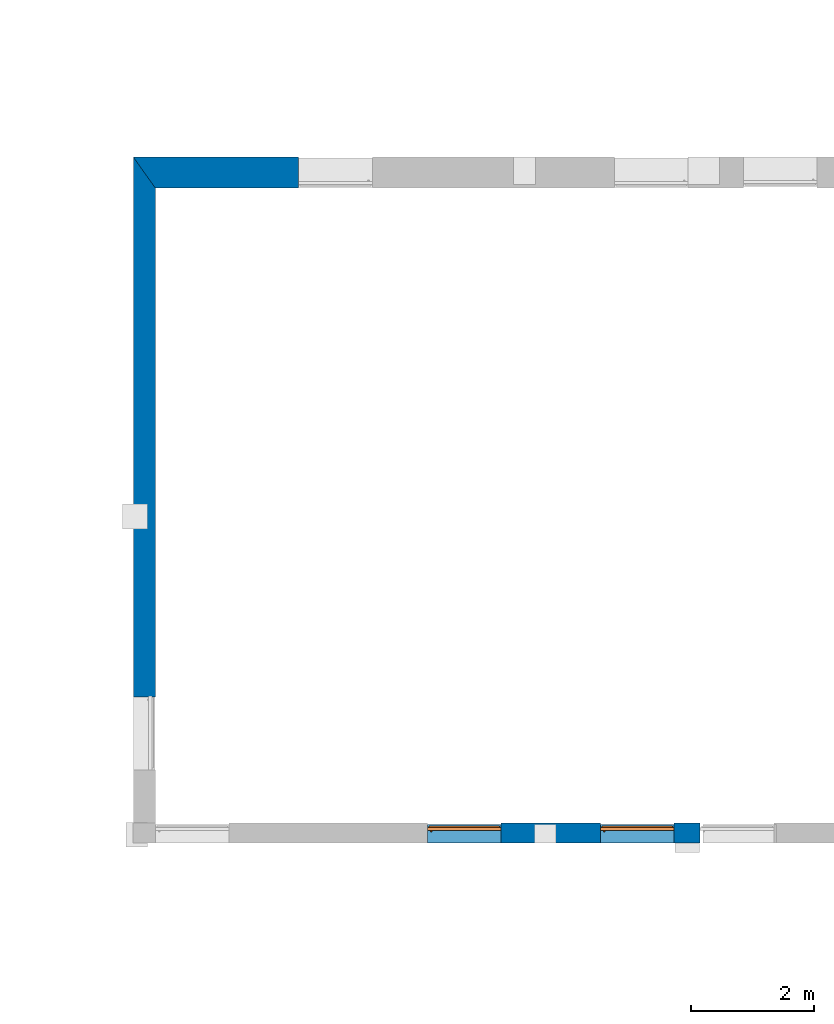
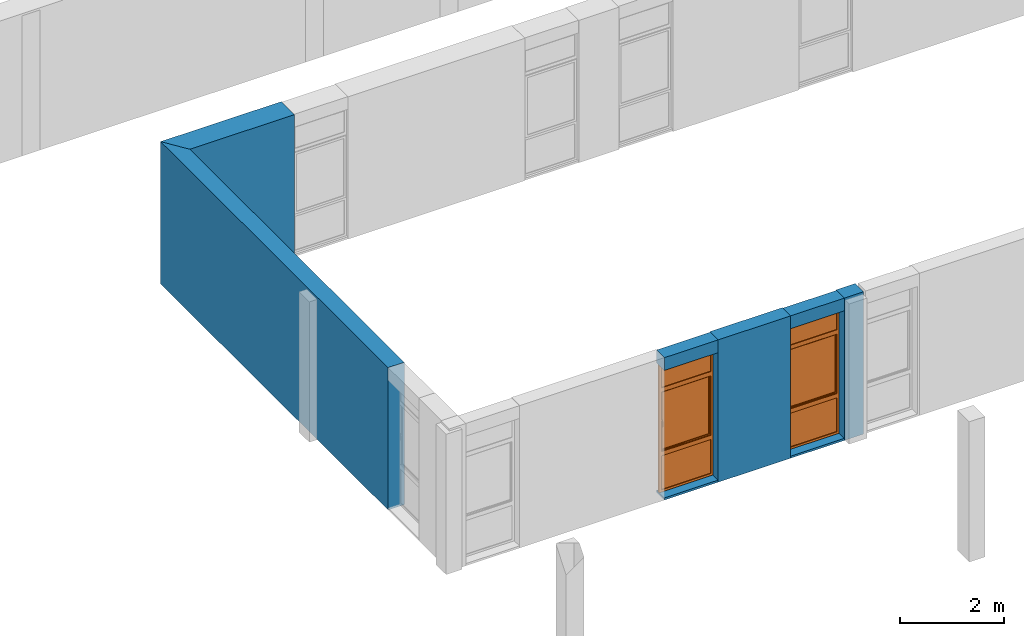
# One storey, part 3 of 11: 6 walls, 2 proxies, 2 openings.
"""IFC2X3 building model written with IfcOpenShell, lengths in millimetres."""

from ifc_helpers import new_model, entity, si_unit, converted_unit, derived_unit, money_unit, direction, frame, origin_with_axes, origin_2d_with_axis, place, context, subcontext, project, spatial, polyline, rectangle, outline, extrude, open_shell, faceted_brep, surface_model, source, transform, mapped, material, layer, layer_set, layer_usage, type_object, element, fill, save


model = new_model("IFC2X3")

# Units and contexts
model_context = context("Model", 3, precision=0.01, world=origin_with_axes(), true_north=direction((0.0, 1.0)))
body_context = subcontext(model_context, "Body", "Model", "MODEL_VIEW")
ifc_project = project(units=[si_unit("LENGTHUNIT", "METRE", prefix="MILLI"), si_unit("AREAUNIT", "SQUARE_METRE"), si_unit("VOLUMEUNIT", "CUBIC_METRE"), converted_unit("PLANEANGLEUNIT", "DEGREE", entity("IfcPlaneAngleMeasure", 0.0174532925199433), si_unit("PLANEANGLEUNIT", "RADIAN"), dimensions=[0, 0, 0, 0, 0, 0, 0]), money_unit("USD"), converted_unit("TIMEUNIT", "Year", entity("IfcTimeMeasure", 31557600.0), si_unit("TIMEUNIT", "SECOND"), dimensions=[0, 0, 1, 0, 0, 0, 0]), si_unit("MASSUNIT", "GRAM", prefix="KILO"), si_unit("THERMODYNAMICTEMPERATUREUNIT", "DEGREE_CELSIUS"), si_unit("LUMINOUSINTENSITYUNIT", "LUMEN"), si_unit("ENERGYUNIT", "JOULE", prefix="MEGA"), derived_unit("THERMALCONDUCTANCEUNIT", [(si_unit("POWERUNIT", "WATT"), 1), (si_unit("LENGTHUNIT", "METRE"), -1), (si_unit("THERMODYNAMICTEMPERATUREUNIT", "KELVIN"), -1)]), derived_unit("SPECIFICHEATCAPACITYUNIT", [(si_unit("ENERGYUNIT", "JOULE"), 1), (si_unit("MASSUNIT", "GRAM", prefix="KILO"), -1), (si_unit("THERMODYNAMICTEMPERATUREUNIT", "KELVIN"), -1)]), derived_unit("MASSDENSITYUNIT", [(si_unit("MASSUNIT", "GRAM", prefix="KILO"), 1), (si_unit("VOLUMEUNIT", "CUBIC_METRE"), -1)])], contexts=[model_context])

# Site, building, storey
site_placement = place(None, origin_with_axes())
site = spatial("IfcSite", under=ifc_project, at=site_placement, Name="Sitio", CompositionType="ELEMENT")
building_placement = place(site_placement, origin_with_axes())
building = spatial("IfcBuilding", under=site, at=building_placement, Name="Construcción", CompositionType="ELEMENT")
storey_placement = place(building_placement, frame((0.0, 0.0, -3650.0), z_axis=(0.0, 0.0, 1.0), x_axis=(1.0, 0.0, 0.0)))
storey = spatial("IfcBuildingStorey", under=building, at=storey_placement, Name="-1. Piso", CompositionType="ELEMENT", Elevation=-3650.0)

# Wall, opening, proxy
ifc_material_1 = material(Name="ARQ_AM246_Arrebossat_De_Guix")
ifc_layer_1 = layer(ifc_material_1, 20.0, ventilated="UNKNOWN")
ifc_material_2 = material(Name="ARQ_CE217_Gero")
ifc_layer_2 = layer(ifc_material_2, 110.0, ventilated="UNKNOWN")
ifc_material_3 = material(Name="ARQ_AI031_Aillament_Poliestireno expandido EPS")
ifc_layer_3 = layer(ifc_material_3, 100.0, ventilated="UNKNOWN")
ifc_material_4 = material(Name="ARQ_CE218_Ceramic")
ifc_layer_4 = layer(ifc_material_4, 50.0, ventilated="UNKNOWN")
ifc_layer_5 = layer(ifc_material_1, 20.0, ventilated="UNKNOWN")
ifc_layer_set_1 = layer_set([ifc_layer_1, ifc_layer_2, ifc_layer_3, ifc_layer_4, ifc_layer_5], Name="façana pati CR3 (ampit)")
ifc_layer_usage_1 = layer_usage(ifc_layer_set_1, "AXIS2", "POSITIVE", -300.0000000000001)
wall_type_1 = type_object("IfcWallType", Name="façana pati CR3 (ampit) 300", PredefinedType="NOTDEFINED")
wall_1_placement = place(storey_placement, frame((-22076.10900490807, -12338.97582371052, 0.0), z_axis=(0.0, 0.0, 1.0), x_axis=(-1.0, 0.0, 0.0)))
wall_1 = element("IfcWallStandardCase", 1, at=wall_1_placement, inside=storey, type_object=wall_type_1, material=ifc_layer_usage_1, Name="MS-201", context=body_context, shape_type="SweptSolid", body=[
    extrude(outline(polyline([(0.0, -300.0000000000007), (1194.999999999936, -300.0000000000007), (1194.999999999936, 0.0), (0.0, 0.0), (0.0, -300.0000000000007)])), origin_with_axes(), (0.0, 0.0, 1.0), 3350.0),
])
opening_1_placement = place(wall_1_placement, frame((594.9999999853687, 0.0, 49.99999999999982), z_axis=(0.0, 0.0, 1.0), x_axis=(1.0, 0.0, 0.0)))
opening_1 = element("IfcOpeningElement", 2, at=opening_1_placement, cuts=wall_1, Name="V - 008", context=body_context, shape_type="SweptSolid", body=[
    extrude(rectangle(XDim=1200.000000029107, YDim=3000.0, at=origin_2d_with_axis()), frame((0.0, -250.0, 1500.0), z_axis=(0.0, -1.0, 0.0), x_axis=(-1.0, 0.0, 0.0)), (0.0, 0.0, -1.0), 550.0),
    extrude(rectangle(XDim=1200.000000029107, YDim=3000.0, at=origin_2d_with_axis()), frame((0.0, -250.0, 1500.0), z_axis=(0.0, 1.0, 0.0), x_axis=(-1.0, 0.0, 0.0)), (0.0, 0.0, -1.0), 350.0000000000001),
])
building_element_proxy_type = type_object("IfcBuildingElementProxyType", Name="Ventana Vertical Multi-Faja 27", PredefinedType="NOTDEFINED")
shared_shape = source(origin_with_axes(), body_context, "Body", "SurfaceModel", [
    faceted_brep([(-575.0000000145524, 0.0, 925.0), (-550.0000000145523, 0.0, 925.0), (-550.0000000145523, 0.0, 850.0), (-550.0000000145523, 0.0, 50.00000000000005), (-600.0000000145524, 0.0, 50.00000000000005), (-600.0000000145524, 0.0, 2950.0), (-550.0000000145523, 0.0, 2950.0), (-550.0000000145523, 0.0, 2450.0), (-550.0000000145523, 0.0, 2375.0), (-575.0000000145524, 0.0, 2375.0), (-575.0000000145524, -25.00000000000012, 925.0), (-550.0000000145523, -25.00000000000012, 925.0), (-550.0000000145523, -25.00000000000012, 950.0000000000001), (-550.0000000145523, -50.00000000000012, 950.0000000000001), (-550.0000000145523, -50.00000000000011, 850.0), (-550.0000000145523, -50.00000000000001, 50.00000000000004), (-600.0000000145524, -50.00000000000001, 50.00000000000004), (-600.0000000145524, -50.00000000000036, 2950.0), (-550.0000000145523, -50.00000000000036, 2950.0), (-550.0000000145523, -50.0000000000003, 2450.0), (-550.0000000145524, -25.00000000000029, 2375.0), (-550.0000000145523, -50.00000000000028, 2350.0), (-550.0000000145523, -25.00000000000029, 2350.0), (-575.0000000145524, -25.00000000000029, 2375.0)], [[[0, 1, 2, 3, 4, 5, 6, 7, 8, 9]], [[0, 10, 11, 1]], [[11, 12, 13, 14, 2, 1]], [[3, 2, 14, 15]], [[4, 3, 15, 16]], [[5, 4, 16, 17]], [[6, 5, 17, 18]], [[7, 6, 18, 19]], [[20, 8, 7, 19, 21, 22]], [[20, 23, 9, 8]], [[9, 23, 10, 0]], [[22, 12, 11, 10, 23, 20]], [[22, 21, 13, 12]], [[17, 16, 15, 14, 13, 21, 19, 18]]]),
    faceted_brep([(575.0000000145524, 0.0, 925.0), (575.0000000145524, 0.0, 2375.0), (550.0000000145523, 0.0, 2375.0), (550.0000000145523, 0.0, 2450.0), (550.0000000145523, 0.0, 2950.0), (600.0000000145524, 0.0, 2950.0), (600.0000000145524, 0.0, 50.00000000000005), (550.0000000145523, 0.0, 50.00000000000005), (550.0000000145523, 0.0, 850.0), (550.0000000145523, 0.0, 925.0), (575.0000000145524, -25.00000000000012, 925.0), (575.0000000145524, -25.00000000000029, 2375.0), (550.0000000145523, -25.00000000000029, 2375.0), (550.0000000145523, -25.00000000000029, 2350.0), (550.0000000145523, -50.00000000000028, 2350.0), (550.0000000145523, -50.0000000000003, 2450.0), (550.0000000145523, -50.00000000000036, 2950.0), (600.0000000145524, -50.00000000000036, 2950.0), (600.0000000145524, -50.00000000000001, 50.00000000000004), (550.0000000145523, -50.00000000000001, 50.00000000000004), (550.0000000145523, -50.00000000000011, 850.0), (550.0000000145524, -25.00000000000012, 925.0), (550.0000000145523, -50.00000000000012, 950.0000000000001), (550.0000000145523, -25.00000000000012, 950.0000000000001)], [[[0, 1, 2, 3, 4, 5, 6, 7, 8, 9]], [[0, 10, 11, 1]], [[1, 11, 12, 2]], [[12, 13, 14, 15, 3, 2]], [[4, 3, 15, 16]], [[5, 4, 16, 17]], [[6, 5, 17, 18]], [[7, 6, 18, 19]], [[8, 7, 19, 20]], [[21, 9, 8, 20, 22, 23]], [[9, 21, 10, 0]], [[12, 11, 10, 21, 23, 13]], [[23, 22, 14, 13]], [[14, 22, 20, 19, 18, 17, 16, 15]]]),
    faceted_brep([(-550.0000000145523, -25.00000000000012, 950.0000000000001), (-550.0000000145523, -50.00000000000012, 950.0000000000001), (550.0000000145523, -50.00000000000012, 950.0000000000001), (550.0000000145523, -25.00000000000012, 950.0000000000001), (-550.0000000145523, -25.00000000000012, 925.0), (-550.0000000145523, 0.0, 925.0), (-550.0000000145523, 0.0, 850.0), (-550.0000000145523, -50.00000000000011, 850.0), (550.0000000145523, -50.00000000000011, 850.0), (550.0000000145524, -25.00000000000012, 925.0), (550.0000000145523, 0.0, 850.0), (550.0000000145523, 0.0, 925.0)], [[[0, 1, 2, 3]], [[4, 5, 6, 7, 1, 0]], [[1, 7, 8, 2]], [[9, 3, 2, 8, 10, 11]], [[9, 4, 0, 3]], [[5, 4, 9, 11]], [[11, 10, 6, 5]], [[6, 10, 8, 7]]]),
    faceted_brep([(-550.0000000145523, 0.0, 2375.0), (-550.0000000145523, 0.0, 2450.0), (550.0000000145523, 0.0, 2450.0), (550.0000000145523, 0.0, 2375.0), (-550.0000000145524, -25.00000000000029, 2375.0), (-550.0000000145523, -25.00000000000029, 2350.0), (-550.0000000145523, -50.00000000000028, 2350.0), (-550.0000000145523, -50.0000000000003, 2450.0), (550.0000000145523, -50.0000000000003, 2450.0), (550.0000000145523, -25.00000000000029, 2375.0), (550.0000000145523, -50.00000000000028, 2350.0), (550.0000000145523, -25.00000000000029, 2350.0)], [[[0, 1, 2, 3]], [[4, 5, 6, 7, 1, 0]], [[2, 1, 7, 8]], [[9, 3, 2, 8, 10, 11]], [[9, 4, 0, 3]], [[11, 5, 4, 9]], [[11, 10, 6, 5]], [[7, 6, 10, 8]]]),
    faceted_brep([(550.0000000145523, -50.00000000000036, 2950.0), (550.0000000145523, 0.0, 2950.0), (600.0000000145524, 0.0, 2950.0), (600.0000000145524, -50.00000000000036, 2950.0), (-550.0000000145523, -50.00000000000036, 2950.0), (-550.0000000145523, 0.0, 2950.0), (-600.0000000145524, 0.0, 2950.0), (-600.0000000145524, 0.0, 3000.0), (600.0000000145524, 0.0, 3000.0), (600.0000000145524, -50.00000000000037, 3000.0), (-600.0000000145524, -50.00000000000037, 3000.0), (-600.0000000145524, -50.00000000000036, 2950.0)], [[[0, 1, 2, 3]], [[4, 5, 1, 0]], [[1, 5, 6, 7, 8, 2]], [[3, 2, 8, 9]], [[0, 3, 9, 10, 11, 4]], [[11, 6, 5, 4]], [[10, 7, 6, 11]], [[9, 8, 7, 10]]]),
    faceted_brep([(-550.0000000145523, -50.00000000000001, 50.0), (-550.0000000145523, 0.0, 50.00000000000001), (-600.0000000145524, 0.0, 50.00000000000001), (-600.0000000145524, -50.00000000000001, 50.0), (550.0000000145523, -50.00000000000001, 50.0), (550.0000000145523, 0.0, 50.00000000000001), (600.0000000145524, 0.0, 50.00000000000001), (600.0000000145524, 0.0, 0.0), (-600.0000000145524, 0.0, 0.0), (-600.0000000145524, -50.0, 0.0), (600.0000000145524, -50.0, 0.0), (600.0000000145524, -50.00000000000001, 50.0)], [[[0, 1, 2, 3]], [[4, 5, 1, 0]], [[1, 5, 6, 7, 8, 2]], [[3, 2, 8, 9]], [[0, 3, 9, 10, 11, 4]], [[11, 6, 5, 4]], [[10, 7, 6, 11]], [[9, 8, 7, 10]]]),
    surface_model("IfcShellBasedSurfaceModel", [(-550.0000000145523, -35.0, 49.99999999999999), (550.0000000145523, -35.0, 49.99999999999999), (550.0000000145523, -35.0000000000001, 850.0), (-550.0000000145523, -35.0000000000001, 850.0)], [open_shell([[[0, 1, 2, 3]]])]),
    surface_model("IfcShellBasedSurfaceModel", [(-550.0000000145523, -15.0, 49.99999999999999), (-550.0000000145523, -15.0000000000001, 850.0), (550.0000000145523, -15.0000000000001, 850.0), (550.0000000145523, -15.0, 49.99999999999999)], [open_shell([[[0, 1, 2, 3]]])]),
    faceted_brep([(-521.5000000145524, -25.00000000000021, 1677.0), (-522.839745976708, -25.00000000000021, 1682.0), (-522.839745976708, -37.00000000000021, 1682.0), (-521.5000000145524, -37.00000000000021, 1677.0), (-521.5000000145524, -25.0000000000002, 1623.0), (-522.839745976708, -25.0000000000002, 1618.0), (-526.5000000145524, -25.0000000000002, 1614.339745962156), (-531.5000000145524, -25.0000000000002, 1613.0), (-543.5000000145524, -25.0000000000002, 1613.0), (-548.5000000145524, -25.0000000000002, 1614.339745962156), (-552.1602540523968, -25.0000000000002, 1618.0), (-553.5000000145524, -25.0000000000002, 1623.0), (-553.5000000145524, -25.00000000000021, 1677.0), (-552.1602540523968, -25.00000000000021, 1682.0), (-548.5000000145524, -25.00000000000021, 1685.660254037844), (-543.5000000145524, -25.00000000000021, 1687.0), (-531.5000000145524, -25.00000000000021, 1687.0), (-526.5000000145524, -25.00000000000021, 1685.660254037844), (-526.5000000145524, -37.00000000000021, 1685.660254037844), (-531.5000000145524, -37.00000000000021, 1687.0), (-543.5000000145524, -37.00000000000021, 1687.0), (-548.5000000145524, -37.00000000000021, 1685.660254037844), (-552.1602540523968, -37.00000000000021, 1682.0), (-553.5000000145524, -37.00000000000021, 1677.0), (-553.5000000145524, -37.0000000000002, 1623.0), (-552.1602540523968, -37.0000000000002, 1618.0), (-548.5000000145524, -37.0000000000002, 1614.339745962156), (-543.5000000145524, -37.0000000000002, 1613.0), (-531.5000000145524, -37.0000000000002, 1613.0), (-526.5000000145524, -37.0000000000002, 1614.339745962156), (-522.839745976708, -37.0000000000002, 1618.0), (-521.5000000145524, -37.0000000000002, 1623.0)], [[[0, 1, 2, 3]], [[0, 4, 5, 6, 7, 8, 9, 10, 11, 12, 13, 14, 15, 16, 17, 1]], [[1, 17, 18, 2]], [[3, 2, 18, 19, 20, 21, 22, 23, 24, 25, 26, 27, 28, 29, 30, 31]], [[4, 0, 3, 31]], [[5, 4, 31, 30]], [[6, 5, 30, 29]], [[7, 6, 29, 28]], [[8, 7, 28, 27]], [[9, 8, 27, 26]], [[10, 9, 26, 25]], [[11, 10, 25, 24]], [[12, 11, 24, 23]], [[13, 12, 23, 22]], [[14, 13, 22, 21]], [[15, 14, 21, 20]], [[16, 15, 20, 19]], [[17, 16, 19, 18]]]),
    faceted_brep([(-537.5000000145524, -37.0000000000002, 1663.5), (-544.2500000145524, -37.0000000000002, 1661.69134295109), (-544.2500000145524, -61.00000000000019, 1661.69134295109), (-537.5000000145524, -61.00000000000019, 1663.5), (-530.7500000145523, -37.0000000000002, 1661.69134295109), (-525.8086570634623, -37.0000000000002, 1656.75), (-524.0000000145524, -37.0000000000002, 1650.0), (-525.8086570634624, -37.0000000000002, 1643.25), (-530.7500000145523, -37.0000000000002, 1638.30865704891), (-537.5000000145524, -37.0000000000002, 1636.5), (-544.2500000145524, -37.0000000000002, 1638.30865704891), (-549.1913429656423, -37.0000000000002, 1643.25), (-551.0000000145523, -37.0000000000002, 1650.0), (-549.1913429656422, -37.0000000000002, 1656.75), (-549.1913429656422, -61.00000000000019, 1656.75), (-551.0000000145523, -61.00000000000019, 1650.0), (-549.1913429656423, -61.00000000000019, 1643.25), (-544.2500000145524, -61.00000000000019, 1638.30865704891), (-537.5000000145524, -61.00000000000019, 1636.5), (-530.7500000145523, -61.00000000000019, 1638.30865704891), (-525.8086570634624, -61.00000000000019, 1643.25), (-524.0000000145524, -61.00000000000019, 1650.0), (-525.8086570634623, -61.00000000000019, 1656.75), (-530.7500000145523, -61.00000000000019, 1661.69134295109)], [[[0, 1, 2, 3]], [[0, 4, 5, 6, 7, 8, 9, 10, 11, 12, 13, 1]], [[1, 13, 14, 2]], [[3, 2, 14, 15, 16, 17, 18, 19, 20, 21, 22, 23]], [[4, 0, 3, 23]], [[5, 4, 23, 22]], [[6, 5, 22, 21]], [[7, 6, 21, 20]], [[8, 7, 20, 19]], [[9, 8, 19, 18]], [[10, 9, 18, 17]], [[11, 10, 17, 16]], [[12, 11, 16, 15]], [[13, 12, 15, 14]]]),
    faceted_brep([(-526.0000000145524, -61.00000000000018, 1543.0), (-537.5000000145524, -61.00000000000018, 1540.0), (-549.0000000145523, -61.00000000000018, 1543.0), (-551.0000000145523, -61.00000000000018, 1546.0), (-551.0000000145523, -61.00000000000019, 1650.0), (-549.1913429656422, -61.00000000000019, 1656.75), (-544.2500000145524, -61.00000000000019, 1661.69134295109), (-537.5000000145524, -61.00000000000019, 1663.5), (-530.7500000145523, -61.00000000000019, 1661.69134295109), (-525.8086570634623, -61.00000000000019, 1656.75), (-524.0000000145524, -61.00000000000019, 1650.0), (-524.0000000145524, -61.00000000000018, 1546.0), (-525.9999999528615, -69.00000000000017, 1543.000000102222), (-537.4999999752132, -69.00000000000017, 1539.999999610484), (-548.9999999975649, -69.00000000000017, 1543.000000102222), (-551.0000003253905, -69.00000000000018, 1545.999999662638), (-551.0000003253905, -69.0000000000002, 1649.99999994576), (-549.1913430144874, -69.0000000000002, 1656.749999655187), (-544.2499996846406, -69.0000000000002, 1661.691342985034), (-537.4999999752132, -69.0000000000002, 1663.500000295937), (-530.7500002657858, -69.0000000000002, 1661.691342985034), (-525.808656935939, -69.0000000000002, 1656.749999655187), (-523.9999996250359, -69.0000000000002, 1649.99999994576), (-523.9999996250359, -69.00000000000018, 1545.999999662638), (-527.8625374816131, -71.99999956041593, 1545.61451963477), (-537.4999999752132, -71.99999956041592, 1543.100398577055), (-547.1374624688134, -71.99999956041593, 1545.61451963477), (-548.0000007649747, -71.99999956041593, 1546.908326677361), (-548.0000007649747, -71.99999956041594, 1649.605042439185), (-546.5016170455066, -71.99999956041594, 1655.197085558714), (-542.6970855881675, -71.99999956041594, 1659.001617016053), (-537.4999999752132, -71.99999956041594, 1660.394172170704), (-532.302914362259, -71.99999956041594, 1659.001617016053), (-528.4983829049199, -71.99999956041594, 1655.197085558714), (-526.9999991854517, -71.99999956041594, 1649.605042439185), (-526.9999991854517, -71.99999956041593, 1546.908326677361)], [[[0, 1, 2, 3, 4, 5, 6, 7, 8, 9, 10, 11]], [[1, 0, 12, 13]], [[2, 1, 13, 14]], [[3, 2, 14, 15]], [[4, 3, 15, 16]], [[5, 4, 16, 17]], [[6, 5, 17, 18]], [[7, 6, 18, 19]], [[8, 7, 19, 20]], [[9, 8, 20, 21]], [[10, 9, 21, 22]], [[11, 10, 22, 23]], [[0, 11, 23, 12]], [[13, 12, 24, 25]], [[14, 13, 25, 26]], [[15, 14, 26, 27]], [[16, 15, 27, 28]], [[17, 16, 28, 29]], [[18, 17, 29, 30]], [[19, 18, 30, 31]], [[20, 19, 31, 32]], [[21, 20, 32, 33]], [[22, 21, 33, 34]], [[23, 22, 34, 35]], [[12, 23, 35, 24]], [[26, 25, 24, 35, 34, 33, 32, 31, 30, 29, 28, 27]]]),
    faceted_brep([(-525.0000000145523, -25.00000000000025, 2325.0), (-525.0000000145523, 24.99999999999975, 2325.0), (-575.0000000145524, 24.99999999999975, 2325.0), (-575.0000000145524, -25.00000000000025, 2325.0), (-525.0000000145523, -25.00000000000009, 975.0000000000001), (-525.0000000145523, 24.99999999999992, 975.0000000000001), (-575.0000000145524, 24.99999999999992, 975.0000000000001), (-575.0000000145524, -25.00000000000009, 975.0000000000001)], [[[0, 1, 2, 3]], [[4, 5, 1, 0]], [[1, 5, 6, 2]], [[3, 2, 6, 7]], [[0, 3, 7, 4]], [[7, 6, 5, 4]]]),
    faceted_brep([(525.0000000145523, -25.00000000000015, 975.0000000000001), (525.0000000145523, 24.99999999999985, 975.0000000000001), (575.0000000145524, 24.99999999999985, 975.0000000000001), (575.0000000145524, -25.00000000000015, 975.0000000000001), (525.0000000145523, -25.00000000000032, 2325.0), (525.0000000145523, 24.99999999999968, 2325.0), (575.0000000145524, 24.99999999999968, 2325.0), (575.0000000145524, -25.00000000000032, 2325.0)], [[[0, 1, 2, 3]], [[4, 5, 1, 0]], [[1, 5, 6, 2]], [[3, 2, 6, 7]], [[0, 3, 7, 4]], [[7, 6, 5, 4]]]),
    faceted_brep([(575.0000000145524, -25.00000000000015, 925.0), (575.0000000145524, 24.99999999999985, 925.0), (575.0000000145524, 24.99999999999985, 975.0000000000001), (575.0000000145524, -25.00000000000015, 975.0000000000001), (-575.0000000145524, -25.00000000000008, 925.0), (-575.0000000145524, 24.99999999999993, 925.0), (-575.0000000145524, 24.99999999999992, 975.0000000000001), (-525.0000000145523, 24.99999999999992, 975.0000000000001), (525.0000000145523, 24.99999999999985, 975.0000000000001), (525.0000000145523, -25.00000000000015, 975.0000000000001), (-525.0000000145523, -25.00000000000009, 975.0000000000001), (-575.0000000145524, -25.00000000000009, 975.0000000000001)], [[[0, 1, 2, 3]], [[4, 5, 1, 0]], [[1, 5, 6, 7, 8, 2]], [[3, 2, 8, 9]], [[0, 3, 9, 10, 11, 4]], [[11, 6, 5, 4]], [[10, 7, 6, 11]], [[9, 8, 7, 10]]]),
    faceted_brep([(-575.0000000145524, -25.00000000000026, 2375.0), (-575.0000000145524, 24.99999999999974, 2375.0), (-575.0000000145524, 24.99999999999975, 2325.0), (-575.0000000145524, -25.00000000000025, 2325.0), (575.0000000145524, -25.00000000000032, 2375.0), (575.0000000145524, 24.99999999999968, 2375.0), (575.0000000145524, 24.99999999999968, 2325.0), (525.0000000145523, 24.99999999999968, 2325.0), (-525.0000000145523, 24.99999999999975, 2325.0), (-525.0000000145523, -25.00000000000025, 2325.0), (525.0000000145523, -25.00000000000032, 2325.0), (575.0000000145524, -25.00000000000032, 2325.0)], [[[0, 1, 2, 3]], [[4, 5, 1, 0]], [[1, 5, 6, 7, 8, 2]], [[3, 2, 8, 9]], [[0, 3, 9, 10, 11, 4]], [[11, 6, 5, 4]], [[10, 7, 6, 11]], [[9, 8, 7, 10]]]),
    surface_model("IfcShellBasedSurfaceModel", [(-525.0000000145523, -10.00000000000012, 975.0000000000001), (525.0000000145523, -10.00000000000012, 975.0000000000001), (525.0000000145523, -10.00000000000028, 2325.0), (-525.0000000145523, -10.00000000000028, 2325.0)], [open_shell([[[0, 1, 2, 3]]])]),
    surface_model("IfcShellBasedSurfaceModel", [(-525.0000000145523, 9.999999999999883, 975.0000000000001), (-525.0000000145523, 9.99999999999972, 2325.0), (525.0000000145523, 9.99999999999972, 2325.0), (525.0000000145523, 9.999999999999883, 975.0000000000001)], [open_shell([[[0, 1, 2, 3]]])]),
    surface_model("IfcShellBasedSurfaceModel", [(-550.0000000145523, -35.0000000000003, 2450.0), (550.0000000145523, -35.0000000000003, 2450.0), (550.0000000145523, -35.00000000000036, 2950.0), (-550.0000000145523, -35.00000000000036, 2950.0)], [open_shell([[[0, 1, 2, 3]]])]),
    surface_model("IfcShellBasedSurfaceModel", [(-550.0000000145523, -15.0000000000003, 2450.0), (-550.0000000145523, -15.00000000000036, 2950.0), (550.0000000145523, -15.00000000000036, 2950.0), (550.0000000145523, -15.0000000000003, 2450.0)], [open_shell([[[0, 1, 2, 3]]])]),
])
proxy_1_placement = place(opening_1_placement, frame((600.0000000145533, 0.0, 0.0), z_axis=(0.0, 0.0, 1.0), x_axis=(-1.0, 0.0, 0.0)))
proxy_1 = element("IfcBuildingElementProxy", 3, at=proxy_1_placement, inside=storey, type_object=building_element_proxy_type, Name="V - 008", context=body_context, shape_type="MappedRepresentation", body=[
    mapped(shared_shape, transform((600.0000000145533, 250.0, 0.0))),
])
fill(opening_1, proxy_1)

ifc_layer_usage_2 = layer_usage(ifc_layer_set_1, "AXIS2", "POSITIVE", -300.0000000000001)
wall_2_placement = place(storey_placement, frame((-19266.10900490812, -12338.97582371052, 0.0), z_axis=(0.0, 0.0, 1.0), x_axis=(-1.0, 0.0, 0.0)))
wall_2 = element("IfcWallStandardCase", 4, at=wall_2_placement, inside=storey, type_object=wall_type_1, material=ifc_layer_usage_2, Name="MS-201", context=body_context, shape_type="SweptSolid", body=[
    extrude(outline(polyline([(0.0, -300.0000000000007), (1194.999999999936, -300.0000000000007), (1194.999999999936, 0.0), (0.0, 0.0), (0.0, -300.0000000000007)])), origin_with_axes(), (0.0, 0.0, 1.0), 3350.0),
])
opening_2_placement = place(wall_2_placement, frame((594.9999999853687, 0.0, 49.99999999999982), z_axis=(0.0, 0.0, 1.0), x_axis=(1.0, 0.0, 0.0)))
opening_2 = element("IfcOpeningElement", 5, at=opening_2_placement, cuts=wall_2, Name="V - 008", context=body_context, shape_type="SweptSolid", body=[
    extrude(rectangle(XDim=1200.000000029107, YDim=3000.0, at=origin_2d_with_axis()), frame((0.0, -250.0, 1500.0), z_axis=(0.0, -1.0, 0.0), x_axis=(-1.0, 0.0, 0.0)), (0.0, 0.0, -1.0), 550.0),
    extrude(rectangle(XDim=1200.000000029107, YDim=3000.0, at=origin_2d_with_axis()), frame((0.0, -250.0, 1500.0), z_axis=(0.0, 1.0, 0.0), x_axis=(-1.0, 0.0, 0.0)), (0.0, 0.0, -1.0), 350.0000000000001),
])
proxy_2_placement = place(opening_2_placement, frame((600.0000000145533, 0.0, 0.0), z_axis=(0.0, 0.0, 1.0), x_axis=(-1.0, 0.0, 0.0)))
proxy_2 = element("IfcBuildingElementProxy", 6, at=proxy_2_placement, inside=storey, type_object=building_element_proxy_type, Name="V - 008", context=body_context, shape_type="MappedRepresentation", body=[
    mapped(shared_shape, transform((600.0000000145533, 250.0, 0.0))),
])
fill(opening_2, proxy_2)

# Walls
ifc_layer_6 = layer(ifc_material_2, 150.0, ventilated="UNKNOWN")
ifc_layer_7 = layer(ifc_material_3, 100.0, ventilated="UNKNOWN")
ifc_layer_8 = layer(ifc_material_4, 50.0, ventilated="UNKNOWN")
ifc_layer_9 = layer(ifc_material_1, 20.0, ventilated="UNKNOWN")
ifc_layer_set_2 = layer_set([ifc_layer_6, ifc_layer_7, ifc_layer_8, ifc_layer_9], Name="façana pati CR3")
ifc_layer_usage_3 = layer_usage(ifc_layer_set_2, "AXIS2", "POSITIVE", -320.0)
wall_type_2 = type_object("IfcWallType", Name="façana pati CR3 320", PredefinedType="NOTDEFINED")
wall_3_placement = place(storey_placement, frame((-18841.10900490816, -12338.97582371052, 0.0), z_axis=(0.0, 0.0, 1.0), x_axis=(-1.0, 0.0, 0.0)))
element("IfcWallStandardCase", 7, at=wall_3_placement, inside=storey, type_object=wall_type_2, material=ifc_layer_usage_3, Name="MS-201", context=body_context, shape_type="SweptSolid", body=[
    extrude(outline(polyline([(0.0, -320.0000000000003), (424.9999999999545, -320.0000000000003), (424.9999999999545, 0.0), (0.0, 0.0), (0.0, -320.0000000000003)])), origin_with_axes(), (0.0, 0.0, 1.0), 3350.0),
])
ifc_layer_usage_4 = layer_usage(ifc_layer_set_2, "AXIS2", "POSITIVE", -320.0)
wall_4_placement = place(storey_placement, frame((-20461.10900490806, -12338.97582371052, 0.0), z_axis=(0.0, 0.0, 1.0), x_axis=(-1.0, 0.0, 0.0)))
element("IfcWallStandardCase", 8, at=wall_4_placement, inside=storey, type_object=wall_type_2, material=ifc_layer_usage_4, Name="MS-201", context=body_context, shape_type="SweptSolid", body=[
    extrude(outline(polyline([(0.0, -320.0000000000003), (1615.000000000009, -320.0000000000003), (1615.000000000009, 0.0), (0.0, 0.0), (0.0, -320.0000000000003)])), origin_with_axes(), (0.0, 0.0, 1.0), 3350.0),
])
ifc_layer_10 = layer(ifc_material_2, 10.0, ventilated="UNKNOWN")
ifc_layer_11 = layer(ifc_material_2, 90.0, ventilated="UNKNOWN")
ifc_layer_12 = layer(ifc_material_3, 180.0, ventilated="UNKNOWN")
ifc_layer_13 = layer(ifc_material_4, 215.0, ventilated="UNKNOWN")
ifc_layer_14 = layer(ifc_material_1, 10.0, ventilated="UNKNOWN")
ifc_layer_set_3 = layer_set([ifc_layer_10, ifc_layer_11, ifc_layer_12, ifc_layer_13, ifc_layer_14], Name="façana pati CR2")
ifc_layer_usage_5 = layer_usage(ifc_layer_set_3, "AXIS2", "POSITIVE", -505.0)
wall_type_3 = type_object("IfcWallType", Name="façana pati CR2 505", PredefinedType="NOTDEFINED")
wall_5_placement = place(storey_placement, frame((-28050.84818028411, -1193.975823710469, 0.0), z_axis=(0.0, 0.0, 1.0), x_axis=(1.0, 0.0, 0.0)))
element("IfcWallStandardCase", 9, at=wall_5_placement, inside=storey, type_object=wall_type_3, material=ifc_layer_usage_5, Name="MS-200", context=body_context, shape_type="SweptSolid", body=[
    extrude(outline(polyline([(359.9999999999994, -505.0000000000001), (2684.416824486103, -505.0000000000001), (2684.416824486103, 0.0), (0.0, 0.0), (359.9999999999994, -505.0000000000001)])), origin_with_axes(), (0.0, 0.0, 1.0), 3350.0),
])
ifc_layer_15 = layer(ifc_material_2, 150.0, ventilated="UNKNOWN")
ifc_layer_16 = layer(ifc_material_3, 140.0, ventilated="UNKNOWN")
ifc_layer_17 = layer(ifc_material_4, 50.0, ventilated="UNKNOWN")
ifc_layer_18 = layer(ifc_material_1, 20.0, ventilated="UNKNOWN")
ifc_layer_set_4 = layer_set([ifc_layer_15, ifc_layer_16, ifc_layer_17, ifc_layer_18], Name="façana pati CR4")
ifc_layer_usage_6 = layer_usage(ifc_layer_set_4, "AXIS2", "POSITIVE", -360.0000000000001)
wall_type_4 = type_object("IfcWallType", Name="façana pati CR4 360", PredefinedType="NOTDEFINED")
wall_6_placement = place(storey_placement, frame((-28050.84818028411, -9964.97582371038, 0.0), z_axis=(0.0, 0.0, 1.0), x_axis=(0.0, 1.0, 0.0)))
element("IfcWallStandardCase", 10, at=wall_6_placement, inside=storey, type_object=wall_type_4, material=ifc_layer_usage_6, Name="MS-200", context=body_context, shape_type="SweptSolid", body=[
    extrude(outline(polyline([(0.0, -359.9999999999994), (8265.999999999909, -359.9999999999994), (8770.99999999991, 0.0), (0.0, 0.0), (0.0, -359.9999999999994)])), origin_with_axes(), (0.0, 0.0, 1.0), 3350.0),
])

save(model, "model.ifc")
